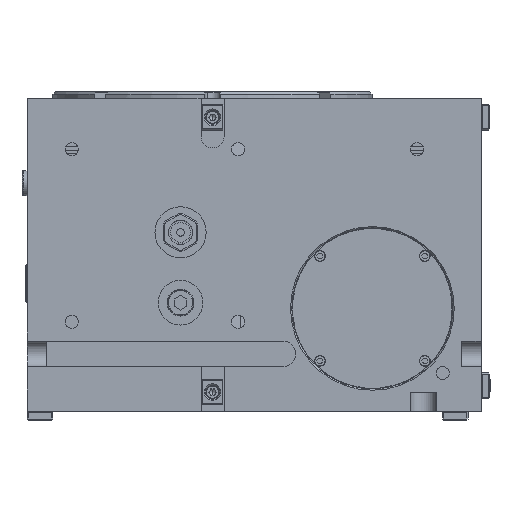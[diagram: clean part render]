
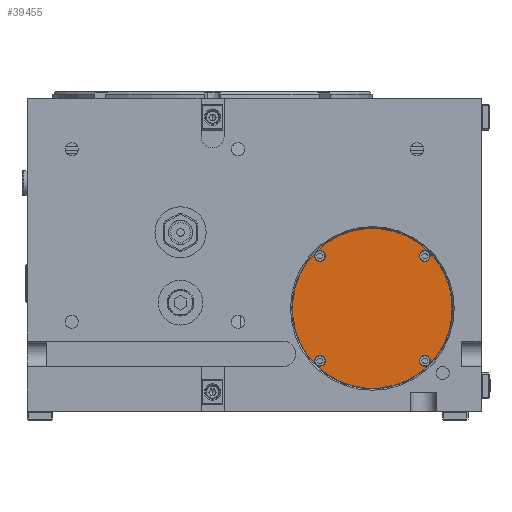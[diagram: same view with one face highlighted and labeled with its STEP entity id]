
A CAD part, left-side view. The second image highlights one B-rep face of the part: STEP entity #39455.
In plain terms, the highlighted planar face has unit normal (-1, 0, 0).
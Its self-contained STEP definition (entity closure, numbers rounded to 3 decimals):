
#133 = CARTESIAN_POINT ( 'NONE',  ( -202., -82.043, -97.432 ) ) ;
#4000 = DIRECTION ( 'NONE',  ( -1., 0., 0. ) ) ;
#4300 = DIRECTION ( 'NONE',  ( 0., -0.707, 0.707 ) ) ;
#4602 = DIRECTION ( 'NONE',  ( -1., 0., 0. ) ) ;
#4950 = CARTESIAN_POINT ( 'NONE',  ( -202., -169.194, -92.306 ) ) ;
#5564 = DIRECTION ( 'NONE',  ( 0., -0.707, 0.707 ) ) ;
#6003 = CIRCLE ( 'NONE', #56010, 2.75 ) ;
#6446 = CARTESIAN_POINT ( 'NONE',  ( -202., -80.806, -180.694 ) ) ;
#7004 = DIRECTION ( 'NONE',  ( -1., 0., 0. ) ) ;
#7458 = VERTEX_POINT ( 'NONE', #8263 ) ;
#7722 = VERTEX_POINT ( 'NONE', #6446 ) ;
#8139 = DIRECTION ( 'NONE',  ( 0., 0.707, -0.707 ) ) ;
#8263 = CARTESIAN_POINT ( 'NONE',  ( -202., -164.068, -97.432 ) ) ;
#8407 = AXIS2_PLACEMENT_3D ( 'NONE', #29855, #47263, #48136 ) ;
#8415 = CARTESIAN_POINT ( 'NONE',  ( -202., -85.932, -93.543 ) ) ;
#8865 = CARTESIAN_POINT ( 'NONE',  ( -202., -83.988, -95.488 ) ) ;
#9047 = CARTESIAN_POINT ( 'NONE',  ( -202., -166.012, -177.512 ) ) ;
#9247 = EDGE_LOOP ( 'NONE', ( #48480, #22735 ) ) ;
#11688 = DIRECTION ( 'NONE',  ( 1., 0., 0. ) ) ;
#12028 = CIRCLE ( 'NONE', #35602, 2.75 ) ;
#12267 = FACE_BOUND ( 'NONE', #9247, .T. ) ;
#13677 = ORIENTED_EDGE ( 'NONE', *, *, #24044, .T. ) ;
#15266 = VERTEX_POINT ( 'NONE', #28509 ) ;
#15868 = VERTEX_POINT ( 'NONE', #35430 ) ;
#16873 = CIRCLE ( 'NONE', #8407, 2.75 ) ;
#16971 = EDGE_CURVE ( 'NONE', #44443, #7458, #12028, .T. ) ;
#17200 = CIRCLE ( 'NONE', #36107, 2.75 ) ;
#17990 = AXIS2_PLACEMENT_3D ( 'NONE', #8865, #31023, #27173 ) ;
#18215 = EDGE_CURVE ( 'NONE', #15868, #15266, #53494, .T. ) ;
#18978 = AXIS2_PLACEMENT_3D ( 'NONE', #26927, #30483, #5564 ) ;
#20177 = DIRECTION ( 'NONE',  ( -1., 0., 0. ) ) ;
#20505 = ORIENTED_EDGE ( 'NONE', *, *, #25687, .F. ) ;
#21681 = DIRECTION ( 'NONE',  ( -1., 0., 0. ) ) ;
#22273 = DIRECTION ( 'NONE',  ( 0., -0.707, 0.707 ) ) ;
#22735 = ORIENTED_EDGE ( 'NONE', *, *, #26433, .F. ) ;
#22783 = CIRCLE ( 'NONE', #18978, 2.75 ) ;
#24044 = EDGE_CURVE ( 'NONE', #34470, #7722, #42483, .T. ) ;
#24196 = VERTEX_POINT ( 'NONE', #40865 ) ;
#24500 = EDGE_CURVE ( 'NONE', #47183, #27833, #22783, .T. ) ;
#24610 = DIRECTION ( 'NONE',  ( 0., -0.707, 0.707 ) ) ;
#24736 = EDGE_LOOP ( 'NONE', ( #13677, #47207 ) ) ;
#25027 = EDGE_CURVE ( 'NONE', #24196, #47650, #41681, .T. ) ;
#25206 = CARTESIAN_POINT ( 'NONE',  ( -202., -164.068, -179.457 ) ) ;
#25277 = FACE_BOUND ( 'NONE', #28465, .T. ) ;
#25687 = EDGE_CURVE ( 'NONE', #7458, #44443, #17200, .T. ) ;
#25770 = DIRECTION ( 'NONE',  ( -1., 0., 0. ) ) ;
#26433 = EDGE_CURVE ( 'NONE', #47650, #24196, #6003, .T. ) ;
#26927 = CARTESIAN_POINT ( 'NONE',  ( -202., -83.988, -95.488 ) ) ;
#27173 = DIRECTION ( 'NONE',  ( 0., -0.707, 0.707 ) ) ;
#27833 = VERTEX_POINT ( 'NONE', #133 ) ;
#28452 = CARTESIAN_POINT ( 'NONE',  ( -202., -166.012, -95.488 ) ) ;
#28465 = EDGE_LOOP ( 'NONE', ( #57124, #20505 ) ) ;
#28509 = CARTESIAN_POINT ( 'NONE',  ( -202., -82.043, -179.457 ) ) ;
#29855 = CARTESIAN_POINT ( 'NONE',  ( -202., -83.988, -177.512 ) ) ;
#30376 = AXIS2_PLACEMENT_3D ( 'NONE', #9047, #4602, #45085 ) ;
#30483 = DIRECTION ( 'NONE',  ( -1., 0., 0. ) ) ;
#30527 = AXIS2_PLACEMENT_3D ( 'NONE', #47709, #11688, #8139 ) ;
#31023 = DIRECTION ( 'NONE',  ( -1., 0., 0. ) ) ;
#31058 = EDGE_CURVE ( 'NONE', #7722, #34470, #43742, .T. ) ;
#31588 = ORIENTED_EDGE ( 'NONE', *, *, #18215, .F. ) ;
#33188 = DIRECTION ( 'NONE',  ( 0., -0.707, 0.707 ) ) ;
#33373 = AXIS2_PLACEMENT_3D ( 'NONE', #56041, #7004, #50727 ) ;
#33651 = ORIENTED_EDGE ( 'NONE', *, *, #49242, .F. ) ;
#33771 = CARTESIAN_POINT ( 'NONE',  ( -202., -166.012, -95.488 ) ) ;
#34470 = VERTEX_POINT ( 'NONE', #4950 ) ;
#35004 = FACE_BOUND ( 'NONE', #51444, .T. ) ;
#35430 = CARTESIAN_POINT ( 'NONE',  ( -202., -85.932, -175.568 ) ) ;
#35600 = AXIS2_PLACEMENT_3D ( 'NONE', #46462, #42928, #33188 ) ;
#35602 = AXIS2_PLACEMENT_3D ( 'NONE', #28452, #20177, #24610 ) ;
#36107 = AXIS2_PLACEMENT_3D ( 'NONE', #33771, #25770, #43784 ) ;
#36921 = ORIENTED_EDGE ( 'NONE', *, *, #24500, .F. ) ;
#37442 = EDGE_LOOP ( 'NONE', ( #36921, #33651 ) ) ;
#38243 = ORIENTED_EDGE ( 'NONE', *, *, #47983, .F. ) ;
#39455 = ADVANCED_FACE ( 'NONE', ( #25277, #12267, #35004, #57452, #44172 ), #47998, .F. ) ;
#40865 = CARTESIAN_POINT ( 'NONE',  ( -202., -167.957, -175.568 ) ) ;
#40931 = CARTESIAN_POINT ( 'NONE',  ( -202., -166.012, -177.512 ) ) ;
#41681 = CIRCLE ( 'NONE', #30376, 2.75 ) ;
#42483 = CIRCLE ( 'NONE', #43444, 62.5 ) ;
#42928 = DIRECTION ( 'NONE',  ( -1., 0., 0. ) ) ;
#43444 = AXIS2_PLACEMENT_3D ( 'NONE', #49425, #21681, #22273 ) ;
#43742 = CIRCLE ( 'NONE', #33373, 62.5 ) ;
#43784 = DIRECTION ( 'NONE',  ( 0., -0.707, 0.707 ) ) ;
#44172 = FACE_OUTER_BOUND ( 'NONE', #24736, .T. ) ;
#44443 = VERTEX_POINT ( 'NONE', #57254 ) ;
#45085 = DIRECTION ( 'NONE',  ( 0., -0.707, 0.707 ) ) ;
#46462 = CARTESIAN_POINT ( 'NONE',  ( -202., -83.988, -177.512 ) ) ;
#47183 = VERTEX_POINT ( 'NONE', #8415 ) ;
#47207 = ORIENTED_EDGE ( 'NONE', *, *, #31058, .T. ) ;
#47213 = CIRCLE ( 'NONE', #17990, 2.75 ) ;
#47263 = DIRECTION ( 'NONE',  ( -1., 0., 0. ) ) ;
#47650 = VERTEX_POINT ( 'NONE', #25206 ) ;
#47709 = CARTESIAN_POINT ( 'NONE',  ( -202., -80.806, -92.306 ) ) ;
#47983 = EDGE_CURVE ( 'NONE', #15266, #15868, #16873, .T. ) ;
#47998 = PLANE ( 'NONE',  #30527 ) ;
#48136 = DIRECTION ( 'NONE',  ( 0., -0.707, 0.707 ) ) ;
#48480 = ORIENTED_EDGE ( 'NONE', *, *, #25027, .F. ) ;
#49242 = EDGE_CURVE ( 'NONE', #27833, #47183, #47213, .T. ) ;
#49425 = CARTESIAN_POINT ( 'NONE',  ( -202., -125., -136.5 ) ) ;
#50727 = DIRECTION ( 'NONE',  ( 0., -0.707, 0.707 ) ) ;
#51444 = EDGE_LOOP ( 'NONE', ( #31588, #38243 ) ) ;
#53494 = CIRCLE ( 'NONE', #35600, 2.75 ) ;
#56010 = AXIS2_PLACEMENT_3D ( 'NONE', #40931, #4000, #4300 ) ;
#56041 = CARTESIAN_POINT ( 'NONE',  ( -202., -125., -136.5 ) ) ;
#57124 = ORIENTED_EDGE ( 'NONE', *, *, #16971, .F. ) ;
#57254 = CARTESIAN_POINT ( 'NONE',  ( -202., -167.957, -93.543 ) ) ;
#57452 = FACE_BOUND ( 'NONE', #37442, .T. ) ;
